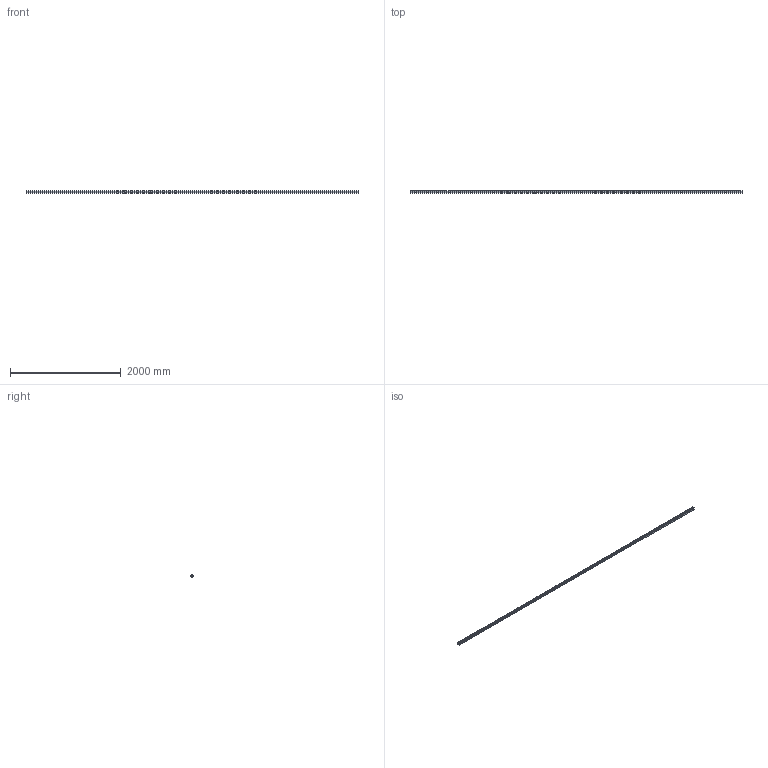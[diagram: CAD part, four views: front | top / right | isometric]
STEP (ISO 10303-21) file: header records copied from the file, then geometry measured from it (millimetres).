
FILE_DESCRIPTION (( 'STEP AP203' ), '1' );
FILE_NAME ('20206400_Klemmprofil 8 40x40-180 mit Klemmleiste.step', '2021-06-19T07:53:21', ( '' ), ( '' ), 'SwSTEP 2.0', 'SolidWorks 2021', '' );
FILE_SCHEMA (( 'CONFIG_CONTROL_DESIGN' ));
Length unit declared in the file: millimetre
Products named in the file (4): 20206400 Klemmleiste; DIN 912 M6 x 20 --- 20S_DIN 912 M6 x 20 --- 20S; 20206400_Klemmprofil 8 40x40-180 mit Klemmleiste; 20206400 Klemmprofil 8 40x40-180 mit Klemmleiste_Default<Wie bearbeitet>
Assembly tree (61 placements, depth 2):
  20206400_Klemmprofil 8 40x40-180 mit Klemmleiste
    20206400 Klemmprofil 8 40x40-180 mit Klemmleiste_Default<Wie bearbeitet>
    20206400 Klemmleiste  x2
    DIN 912 M6 x 20 --- 20S_DIN 912 M6 x 20 --- 20S  x58
Bounding box: 6000 x 40 x 40 mm (x, y, z)
Volume: 6294093.6 mm3; surface area: 2938957.2 mm2
Topology: 61 solids, 61 shells, 8456 faces, 22450 edges, 13884 vertices
Faces by surface type: cone 4176, cylinder 2716, plane 1332, torus 232
Entity records: 46250 total; most frequent: CARTESIAN_POINT 13262, ORIENTED_EDGE 7216, DIRECTION 6142, EDGE_CURVE 3608, VERTEX_POINT 2293, AXIS2_PLACEMENT_3D 2249, LINE 1644, VECTOR 1644
